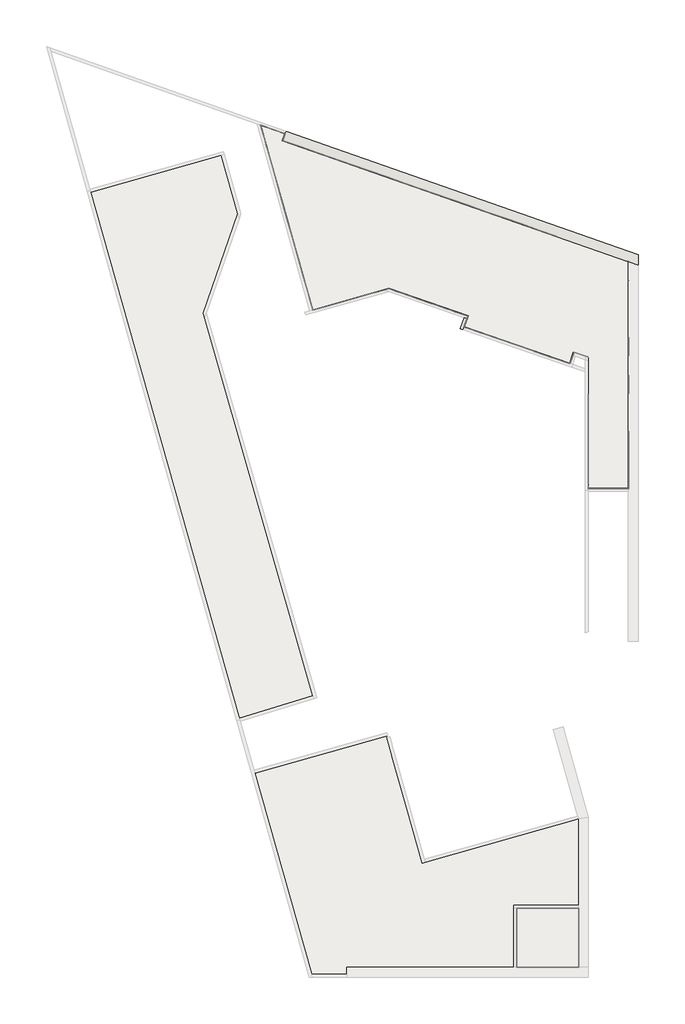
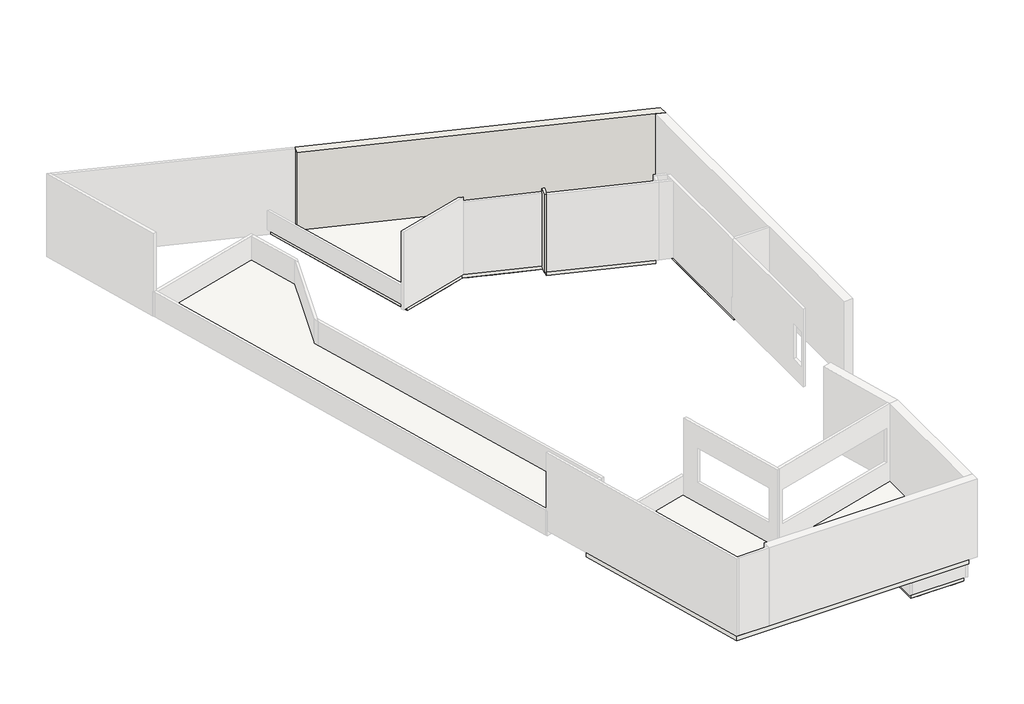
# Not in any storey, part 2 of 2: 5 slabs, 2 proxies, 2 walls.
"""IFC4 building model written with IfcOpenShell, lengths in millimetres."""

from ifc_helpers import new_model, si_unit, frame, origin, place, context, project, spatial, polyline, outline, extrude, faceted_brep, triangles, element, save

model = new_model("IFC4")

# Units and contexts
model_context = context("Model", 3, world=origin())
ifc_project = project(units=[si_unit("LENGTHUNIT", "METRE", prefix="MILLI")], contexts=[model_context])

# Site, building
site = spatial("IfcSite", under=ifc_project)
building = spatial("IfcBuilding", under=site)

# Proxies
placement = place(None, origin())
element("IfcBuildingElementProxy", 1, Name="Building Element Proxy", at=placement, inside=building, context=model_context, shape_type="Tessellation", body=[
    triangles([(-76591.7714355, 37109.5511536, 31169.8416138), (-76591.7714355, 37109.5511536, 33482.3306946), (-77472.0386353, 37417.5858398, 31169.8416138), (-77472.0386353, 37417.5858398, 33482.3306946), (-78352.305835, 37725.6182007, 31169.8416138), (-78352.305835, 37725.6182007, 33482.33302), (-79232.5776855, 38033.6505615, 31169.8416138), (-79232.5776855, 38033.6505615, 33482.3306946), (-80112.8402344, 38341.6852478, 31169.8416138), (-80112.8402344, 38341.6852478, 33482.3306946), (-80993.112085, 38649.7176086, 31169.8416138), (-80993.112085, 38649.7176086, 33482.3306946), (-81873.3746338, 38957.7522949, 31169.8416138), (-81873.3746338, 38957.7522949, 33482.3306946), (-82753.6464844, 39265.7846558, 31169.8416138), (-82753.6464844, 39265.7846558, 33482.33302), (-83321.742041, 39464.5771729, 31169.8416138), (-83321.742041, 39464.5771729, 33360.1962891), (-84199.8000732, 39771.8374878, 31169.8416138), (-84199.8000732, 39771.8374878, 33360.1962891), (-85077.8674072, 40079.1024536, 31169.8416138), (-85077.8674072, 40079.1024536, 33360.1962891), (-85955.9254395, 40386.3627686, 31169.8416138), (-85955.9254395, 40386.3627686, 33360.1962891), (-86833.9834717, 40693.6230835, 31169.8416138), (-86833.9834717, 40693.6230835, 33360.1962891), (-88494.933252, 41274.8387695, 31169.8416138), (-88494.933252, 41274.8387695, 31214.7342224), (-88579.9978271, 41304.6043945, 31169.8416138), (-88579.9978271, 41304.6043945, 31460.1076172), (-89403.0359619, 41592.6147217, 31169.8416138), (-89403.0359619, 41592.6147217, 31460.1076172), (-90226.0740967, 41880.6203979, 31169.8416138), (-90226.0740967, 41880.6203979, 31460.1076172), (-90291.353833, 41903.4655151, 31169.8416138), (-90291.353833, 41903.4655151, 31236.0305969), (-90292.9444336, 41904.0236206, 31169.8416138), (-90292.9444336, 41904.0236206, 31238.3234802), (-90301.6136719, 41907.0559937, 31169.8416138), (-90301.6136719, 41907.0559937, 31250.7738831), (-90327.9283447, 41916.2647339, 31169.8416138), (-90327.9283447, 41916.2647339, 31288.5576233), (-90322.003125, 41933.1892822, 31169.8416138), (-90322.003125, 41933.1892822, 31323.2043457), (-90316.7476318, 41948.2069702, 31169.8416138), (-90316.7476318, 41948.2069702, 31353.9420044), (-90315.2593506, 41952.4625244, 31169.8416138), (-90315.2593506, 41952.4625244, 31362.6531006), (-90240.3615967, 42166.5099243, 31169.8416138), (-90240.3615967, 42166.5099243, 32853.7504578), (-90213.4888184, 42243.3052368, 31169.8416138), (-90213.4888184, 42243.3052368, 32936.9384033), (-90210.1866943, 42252.7418701, 31169.8416138), (-90210.1866943, 42252.7418701, 32834.0539856), (-90233.3666748, 42260.9367188, 31169.8416138), (-90233.3666748, 42260.9367188, 32900.2290161), (-90505.1919434, 42356.9913208, 31169.8416138), (-90505.1919434, 42356.9913208, 32349.9998108), (-90523.4791992, 42363.4606934, 31169.8416138), (-90523.4791992, 42363.4606934, 32349.9998108), (-90582.0802734, 42384.1664062, 31169.8416138), (-90582.0802734, 42384.1664062, 32349.9998108), (-90670.4655762, 42415.3970581, 31169.8416138), (-90670.4655762, 42415.3970581, 32349.9998108), (-91052.9631592, 42550.5655518, 31169.8416138), (-91052.9631592, 42550.5655518, 32349.9998108), (-91162.2867188, 42589.2004028, 31169.8416138), (-91162.2867188, 42589.2004028, 32349.9998108), (-91452.1294922, 42691.626709, 31169.8416138), (-91452.1294922, 42691.626709, 32349.9998108)], [[1, 4, 2], [1, 3, 4], [3, 6, 4], [3, 5, 6], [5, 8, 6], [5, 7, 8], [7, 10, 8], [7, 9, 10], [9, 12, 10], [9, 11, 12], [11, 14, 12], [11, 13, 14], [13, 16, 14], [13, 15, 16], [15, 18, 16], [15, 17, 18], [17, 20, 18], [17, 19, 20], [19, 22, 20], [19, 21, 22], [21, 24, 22], [21, 23, 24], [23, 26, 24], [23, 25, 26], [25, 28, 26], [25, 27, 28], [27, 30, 28], [27, 29, 30], [29, 32, 30], [29, 31, 32], [31, 34, 32], [31, 33, 34], [33, 36, 34], [33, 35, 36], [35, 38, 36], [35, 37, 38], [37, 40, 38], [37, 39, 40], [39, 42, 40], [39, 41, 42], [41, 44, 42], [41, 43, 44], [43, 46, 44], [43, 45, 46], [45, 48, 46], [45, 47, 48], [47, 50, 48], [47, 49, 50], [49, 52, 50], [49, 51, 52], [51, 54, 52], [51, 53, 54], [53, 56, 54], [53, 55, 56], [55, 58, 56], [55, 57, 58], [57, 60, 58], [57, 59, 60], [59, 62, 60], [59, 61, 62], [61, 64, 62], [61, 63, 64], [63, 66, 64], [63, 65, 66], [65, 68, 66], [65, 67, 68], [67, 70, 68], [67, 69, 70]], closed=False),
    triangles([(-72978.3780396, 35845.1120544, 31169.8416138), (-72978.3780396, 35845.1120544, 33597.4120422), (-73070.6979858, 35877.4170593, 31169.8416138), (-73070.6979858, 35877.4170593, 33482.3306946)], [[1, 4, 2], [1, 3, 4]], closed=False),
    triangles([(-72978.3780396, 34880.4616333, 31169.8416138), (-72978.3780396, 34880.4616333, 33449.6908264), (-72978.3780396, 34891.2819031, 31169.8416138), (-72978.3780396, 34891.2819031, 33457.081073)], [[1, 4, 2], [1, 3, 4]], closed=False),
    triangles([(-72978.3780396, 31101.6341492, 31169.8416138), (-72978.3780396, 31101.6341492, 33425.9015808), (-72978.3780396, 32038.2258179, 31169.8416138), (-72978.3780396, 32038.2258179, 33425.9015808)], [[1, 4, 2], [1, 3, 4]], closed=False),
    triangles([(-72978.3780396, 29206.8125977, 31169.8416138), (-72978.3780396, 29206.8125977, 33416.3463501), (-72978.3780396, 30143.4042664, 31169.8416138), (-72978.3780396, 30143.4042664, 33416.3463501)], [[1, 4, 2], [1, 3, 4]], closed=False),
    triangles([(-75016.0536621, 24599.386853, 31169.8416138), (-75016.0536621, 24599.386853, 33388.8317505), (-75016.0536621, 24446.547345, 31169.8416138), (-75016.0536621, 24446.547345, 31884.4910156), (-74791.4348145, 24446.547345, 31169.8416138), (-74791.4348145, 24446.547345, 32349.9998108), (-74546.338147, 24446.547345, 31169.8416138), (-74546.338147, 24446.547345, 32349.9998108), (-74140.3954834, 24446.547345, 31169.8416138), (-74140.3954834, 24446.547345, 32349.9998108), (-73706.370813, 24446.547345, 31169.8416138), (-73706.370813, 24446.547345, 32349.9998108), (-73332.5703735, 24446.547345, 31169.8416138), (-73332.5703735, 24446.547345, 32349.9998108), (-73100.5426758, 24446.547345, 31169.8416138), (-73100.5426758, 24446.547345, 32349.9998108), (-72978.3780396, 24446.547345, 31169.8416138), (-72978.3780396, 24446.547345, 31745.5739136), (-72978.3780396, 24476.7501526, 31169.8416138), (-72978.3780396, 24476.7501526, 31845.7840759), (-72978.3780396, 24588.2084656, 31169.8416138), (-72978.3780396, 24588.2084656, 32986.4121277), (-72978.3780396, 25333.9885254, 31169.8416138), (-72978.3780396, 25333.9885254, 33185.3581238), (-72978.3780396, 25373.2861267, 31169.8416138), (-72978.3780396, 25373.2861267, 33314.5827942), (-72978.3780396, 25398.7729431, 31169.8416138), (-72978.3780396, 25398.7729431, 33357.8220154), (-72978.3780396, 25417.1671692, 31169.8416138), (-72978.3780396, 25417.1671692, 33365.6564209), (-72978.3780396, 25447.5536865, 31169.8416138), (-72978.3780396, 25447.5536865, 33292.1423035), (-72978.3780396, 26364.5419006, 31169.8416138), (-72978.3780396, 26364.5419006, 33292.1423035), (-72978.3780396, 26402.6837585, 31169.8416138), (-72978.3780396, 26402.6837585, 33268.136792), (-72978.3780396, 26509.5074707, 31169.8416138), (-72978.3780396, 26509.5074707, 33313.6409912), (-72978.3780396, 27046.9421082, 31169.8416138), (-72978.3780396, 27046.9421082, 32962.2856934), (-72978.3780396, 27252.0760986, 31169.8416138), (-72978.3780396, 27252.0760986, 33313.6409912), (-72978.3780396, 27302.6474304, 31169.8416138), (-72978.3780396, 27302.6474304, 33434.3894348), (-72978.3780396, 27315.9628967, 31169.8416138), (-72978.3780396, 27315.9628967, 33471.9755127)], [[1, 4, 2], [1, 3, 4], [3, 6, 4], [3, 5, 6], [5, 8, 6], [5, 7, 8], [7, 10, 8], [7, 9, 10], [9, 12, 10], [9, 11, 12], [11, 14, 12], [11, 13, 14], [13, 16, 14], [13, 15, 16], [15, 18, 16], [15, 17, 18], [17, 20, 18], [17, 19, 20], [19, 22, 20], [19, 21, 22], [21, 24, 22], [21, 23, 24], [23, 26, 24], [23, 25, 26], [25, 28, 26], [25, 27, 28], [27, 30, 28], [27, 29, 30], [29, 32, 30], [29, 31, 32], [31, 34, 32], [31, 33, 34], [33, 36, 34], [33, 35, 36], [35, 38, 36], [35, 37, 38], [37, 40, 38], [37, 39, 40], [39, 42, 40], [39, 41, 42], [41, 44, 42], [41, 43, 44], [43, 46, 44], [43, 45, 46]], closed=False),
    triangles([(-75016.0536621, 29167.8010254, 31169.8416138), (-75016.0536621, 29167.8010254, 33396.6429016), (-75016.0536621, 29157.9551147, 31169.8416138), (-75016.0536621, 29157.9551147, 33394.6174438), (-75016.0536621, 28227.4886536, 31169.8416138), (-75016.0536621, 28227.4886536, 33394.6151184), (-75016.0536621, 28207.0712952, 31169.8416138), (-75016.0536621, 28207.0712952, 33386.4714294), (-75016.0536621, 27295.8059875, 31169.8416138), (-75016.0536621, 27295.8059875, 33386.469104), (-75016.0536621, 27282.632373, 31169.8416138), (-75016.0536621, 27282.632373, 33329.3074768), (-75016.0536621, 26935.4024048, 31169.8416138), (-75016.0536621, 26935.4024048, 31781.4182373), (-75016.0536621, 26367.2463867, 31169.8416138), (-75016.0536621, 26367.2463867, 33329.3074768), (-75016.0536621, 26309.6103699, 31169.8416138), (-75016.0536621, 26309.6103699, 33255.5933716), (-75016.0536621, 25406.5003784, 31169.8416138), (-75016.0536621, 25406.5003784, 33255.5933716), (-75016.0536621, 24688.1581787, 31169.8416138), (-75016.0536621, 24688.1581787, 33400.0008362)], [[1, 4, 2], [1, 3, 4], [3, 6, 4], [3, 5, 6], [5, 8, 6], [5, 7, 8], [7, 10, 8], [7, 9, 10], [9, 12, 10], [9, 11, 12], [11, 14, 12], [11, 13, 14], [13, 16, 14], [13, 15, 16], [15, 18, 16], [15, 17, 18], [17, 20, 18], [17, 19, 20], [19, 22, 20], [19, 21, 22]], closed=False),
    triangles([(-75912.6268433, 30741.2375427, 31169.8416138), (-75912.6268433, 30741.2375427, 33400.0008362), (-75719.680481, 31298.2244751, 31169.8416138), (-75719.680481, 31298.2244751, 33400.0008362), (-75026.1274658, 31057.971698, 31169.8416138), (-75026.1274658, 31057.971698, 33400.0008362), (-75016.0536621, 31054.4788879, 31169.8416138), (-75016.0536621, 31054.4788879, 33400.0008362)], [[1, 4, 2], [1, 3, 4], [3, 6, 4], [3, 5, 6], [5, 8, 6], [5, 7, 8]], closed=False),
    triangles([(-91452.1294922, 42691.626709, 31169.8416138), (-91452.1294922, 42691.626709, 32349.9998108), (-91288.5394775, 42112.3411377, 31169.8416138), (-91288.5394775, 42112.3411377, 32349.9998108), (-91220.887793, 41872.7790161, 31169.8416138), (-91220.887793, 41872.7790161, 32349.9998108), (-91152.6593994, 41631.1612061, 31169.8416138), (-91152.6593994, 41631.1612061, 32349.9998108), (-91092.3281982, 41417.541687, 31169.8416138), (-91092.3281982, 41417.541687, 32349.9998108), (-90993.1807617, 41066.4282349, 31169.8416138), (-90993.1807617, 41066.4282349, 32349.9998108), (-90894.7402588, 40717.8588135, 31169.8416138), (-90894.7402588, 40717.8588135, 32349.9998108), (-90636.8304199, 39804.5564209, 31169.8416138), (-90636.8304199, 39804.5564209, 32349.9998108), (-90378.9112793, 38891.2540283, 31169.8416138), (-90378.9112793, 38891.2540283, 32349.9998108), (-90121.0014404, 37977.9516357, 31169.8416138), (-90121.0014404, 37977.9516357, 32349.9998108), (-89929.7014893, 37300.5278687, 31169.8416138), (-89929.7014893, 37300.5278687, 32349.9998108), (-89863.0916016, 37064.6492432, 31169.8416138), (-89863.0916016, 37064.6492432, 32349.9998108), (-89605.1724609, 36151.3468506, 31169.8416138), (-89605.1724609, 36151.3468506, 32349.9998108), (-89347.2626221, 35238.044458, 31169.8416138), (-89347.2626221, 35238.044458, 32349.9998108), (-89089.3434814, 34324.7420654, 31169.8416138), (-89089.3434814, 34324.7420654, 32349.9998108), (-88977.136377, 33927.3872498, 31169.8416138), (-88977.136377, 33927.3872498, 32349.9998108), (-88831.4336426, 33411.4396729, 31169.8416138), (-88831.4336426, 33411.4396729, 32349.9998108), (-88826.001416, 33392.1920105, 31169.8416138), (-88826.001416, 33392.1920105, 32349.9998108), (-88006.8607178, 33623.5127747, 31169.8416138), (-88006.8607178, 33623.5127747, 32349.9998108), (-87214.1184082, 33847.3805054, 31169.8416138), (-87214.1184082, 33847.3805054, 32349.9998108), (-86763.9319336, 33974.5122803, 31169.8416138), (-86763.9319336, 33974.5122803, 32349.9998108), (-86094.0100342, 34163.6960815, 31169.8416138), (-86094.0100342, 34163.6960815, 32349.9998108), (-85750.7286621, 34260.636676, 31169.8416138), (-85750.7286621, 34260.636676, 32349.9998108), (-85726.5719971, 34267.4595154, 31169.8416138), (-85726.5719971, 34267.4595154, 32349.9998108), (-85233.5323242, 34406.6905518, 31169.8416138), (-85233.5323242, 34406.6905518, 32349.9998108), (-85022.1312744, 34466.3915588, 31169.8416138), (-85022.1312744, 34466.3915588, 32349.9998108), (-84725.6842529, 34363.6978271, 31169.8416138), (-84725.6842529, 34363.6978271, 32349.9998108), (-84684.6262939, 34349.4754395, 31169.8416138), (-84684.6262939, 34349.4754395, 32349.9998108), (-84287.5435547, 34211.9210449, 31169.8416138), (-84287.5435547, 34211.9210449, 32349.9998108), (-84085.5558838, 34141.9508972, 31169.8416138), (-84085.5558838, 34141.9508972, 32349.9998108), (-83849.728418, 34060.2582092, 31169.8416138), (-83849.728418, 34060.2582092, 32349.9998108), (-83812.819043, 34047.4729431, 31169.8416138), (-83812.819043, 34047.4729431, 32349.9998108), (-83531.0408936, 33949.8602966, 31169.8416138), (-83531.0408936, 33949.8602966, 32349.9998108), (-82951.727417, 33749.1795227, 31169.8416138), (-82951.727417, 33749.1795227, 32349.9998108), (-82701.6310547, 33662.5452759, 31169.8416138), (-82701.6310547, 33662.5452759, 32349.9998108), (-82089.9660645, 33450.6558838, 31169.8416138), (-82089.9660645, 33450.6558838, 32349.9998108), (-81903.6797607, 33386.1226135, 31169.8416138), (-81903.6797607, 33386.1226135, 32349.9998108), (-81667.8057861, 33304.4159729, 31169.8416138), (-81667.8057861, 33304.4159729, 32349.9998108), (-81493.9466309, 33244.1894165, 31169.8416138), (-81493.9466309, 33244.1894165, 32349.9998108), (-81062.3636719, 33094.6822632, 31169.8416138), (-81062.3636719, 33094.6822632, 31350.7770813), (-81162.5436035, 32805.3231812, 31169.8416138), (-81162.5436035, 32805.3231812, 32349.9998108), (-81204.3922119, 32684.4328857, 31169.8416138), (-81204.3922119, 32684.4328857, 32349.9998108), (-81250.2219727, 32552.0735229, 31169.8416138), (-81250.2219727, 32552.0735229, 32349.9998108), (-80989.1681396, 32461.6395081, 31169.8416138), (-80989.1681396, 32461.6395081, 32975.0035217), (-80840.8051025, 32410.2472961, 31169.8416138), (-80840.8051025, 32410.2472961, 33330.6585571), (-80374.0521973, 32248.559491, 31169.8416138), (-80374.0521973, 32248.559491, 33371.604895), (-80363.27146, 32244.8248352, 31169.8416138), (-80363.27146, 32244.8248352, 33384.1762207), (-80357.5322754, 32242.8365845, 31169.8416138), (-80357.5322754, 32242.8365845, 33388.024823), (-80354.8626709, 32241.913385, 31169.8416138), (-80354.8626709, 32241.913385, 33389.5456604), (-79482.3670898, 31939.669043, 31169.8416138), (-79482.3670898, 31939.669043, 33389.5456604), (-79478.1068848, 31938.1947144, 31169.8416138), (-79478.1068848, 31938.1947144, 33391.1897461), (-79471.3072998, 31935.8390442, 31169.8416138), (-79471.3072998, 31935.8390442, 33397.2010071), (-78596.1979248, 31632.6924316, 31169.8416138), (-78596.1979248, 31632.6924316, 33397.2010071), (-78588.7100098, 31630.0972412, 31169.8416138), (-78588.7100098, 31630.0972412, 33397.7591125), (-77712.3681519, 31326.5227478, 31169.8416138), (-77712.3681519, 31326.5227478, 33397.761438), (-77708.7311646, 31325.2623596, 31169.8416138), (-77708.7311646, 31325.2623596, 33397.8963135), (-77705.5406616, 31324.1577759, 31169.8416138), (-77705.5406616, 31324.1577759, 33397.893988), (-77702.3408569, 31323.0485413, 31169.8416138), (-77702.3408569, 31323.0485413, 33397.8916626), (-76825.7106445, 31019.374054, 31169.8416138), (-76825.7106445, 31019.374054, 33397.8916626), (-76821.1760376, 31017.8043823, 31169.8416138), (-76821.1760376, 31017.8043823, 33397.7637634), (-75944.8295288, 30714.2275635, 31169.8416138), (-75944.8295288, 30714.2275635, 33397.7637634), (-75924.4307739, 30707.1628784, 31169.8416138), (-75924.4307739, 30707.1628784, 33399.6403931)], [[1, 4, 2], [1, 3, 4], [3, 6, 4], [3, 5, 6], [5, 8, 6], [5, 7, 8], [7, 10, 8], [7, 9, 10], [9, 12, 10], [9, 11, 12], [11, 14, 12], [11, 13, 14], [13, 16, 14], [13, 15, 16], [15, 18, 16], [15, 17, 18], [17, 20, 18], [17, 19, 20], [19, 22, 20], [19, 21, 22], [21, 24, 22], [21, 23, 24], [23, 26, 24], [23, 25, 26], [25, 28, 26], [25, 27, 28], [27, 30, 28], [27, 29, 30], [29, 32, 30], [29, 31, 32], [31, 34, 32], [31, 33, 34], [33, 36, 34], [33, 35, 36], [35, 38, 36], [35, 37, 38], [37, 40, 38], [37, 39, 40], [39, 42, 40], [39, 41, 42], [41, 44, 42], [41, 43, 44], [43, 46, 44], [43, 45, 46], [45, 48, 46], [45, 47, 48], [47, 50, 48], [47, 49, 50], [49, 52, 50], [49, 51, 52], [51, 54, 52], [51, 53, 54], [53, 56, 54], [53, 55, 56], [55, 58, 56], [55, 57, 58], [57, 60, 58], [57, 59, 60], [59, 62, 60], [59, 61, 62], [61, 64, 62], [61, 63, 64], [63, 66, 64], [63, 65, 66], [65, 68, 66], [65, 67, 68], [67, 70, 68], [67, 69, 70], [69, 72, 70], [69, 71, 72], [71, 74, 72], [71, 73, 74], [73, 76, 74], [73, 75, 76], [75, 78, 76], [75, 77, 78], [77, 80, 78], [77, 79, 80], [79, 82, 80], [79, 81, 82], [81, 84, 82], [81, 83, 84], [83, 86, 84], [83, 85, 86], [85, 88, 86], [85, 87, 88], [87, 90, 88], [87, 89, 90], [89, 92, 90], [89, 91, 92], [91, 94, 92], [91, 93, 94], [93, 96, 94], [93, 95, 96], [95, 98, 96], [95, 97, 98], [97, 100, 98], [97, 99, 100], [99, 102, 100], [99, 101, 102], [101, 104, 102], [101, 103, 104], [103, 106, 104], [103, 105, 106], [105, 108, 106], [105, 107, 108], [107, 110, 108], [107, 109, 110], [109, 112, 110], [109, 111, 112], [111, 114, 112], [111, 113, 114], [113, 116, 114], [113, 115, 116], [115, 118, 116], [115, 117, 118], [117, 120, 118], [117, 119, 120], [119, 122, 120], [119, 121, 122], [121, 124, 122], [121, 123, 124]], closed=False),
    triangles([(-91452.1294922, 42691.626709, 31169.8416138), (-88826.001416, 33392.1920105, 31169.8416138), (-85022.1312744, 34466.3915588, 31169.8416138), (-81062.3636719, 33094.6822632, 31169.8416138), (-81250.2219727, 32552.0735229, 31169.8416138), (-75924.4307739, 30707.1628784, 31169.8416138), (-75719.680481, 31298.2244751, 31169.8416138), (-75016.0536621, 31054.4788879, 31169.8416138), (-75016.0536621, 24446.547345, 31169.8416138), (-72978.3780396, 24446.547345, 31169.8416138), (-72978.3780396, 35845.1120544, 31169.8416138), (-90327.9283447, 41916.2647339, 31169.8416138), (-90210.1866943, 42252.7418701, 31169.8416138)], [[2, 3, 12], [1, 12, 13], [12, 1, 2], [12, 3, 11], [6, 4, 5], [8, 9, 10], [4, 7, 11], [4, 6, 7], [8, 11, 7], [11, 8, 10], [4, 11, 3]], closed=False),
])
element("IfcBuildingElementProxy", 2, Name="Building Element Proxy", at=placement, inside=building, context=model_context, shape_type="Tessellation", body=[
    triangles([(-78581.9941406, 436.5890851, 29849.8407898), (-78581.9941406, 436.5890851, 31169.8416138), (-78581.9941406, 528.7853107, 29849.8407898), (-78581.9941406, 528.7853107, 31169.8416138), (-78581.9941406, 647.3300371, 29849.8407898), (-78581.9941406, 647.3300371, 31169.8416138), (-78581.9941406, 2425.8565796, 29849.8407898), (-78581.9941406, 2425.8565796, 31169.8416138), (-78581.9941406, 2838.2825684, 29849.8407898), (-78581.9941406, 2838.2825684, 31169.8416138), (-78581.9941406, 3409.0596474, 29849.8407898), (-78581.9941406, 3409.0596474, 31169.8416138), (-76456.868042, 3409.0596474, 29849.8407898), (-76456.868042, 3409.0596474, 31169.8416138), (-75700.244458, 3409.0596474, 29849.8407898), (-75700.244458, 3409.0596474, 31169.8416138), (-75602.2271851, 3409.0596474, 29849.8407898), (-75602.2271851, 3409.0596474, 31169.8416138), (-75495.5406738, 3409.0596474, 29849.8407898), (-75495.5406738, 3409.0596474, 31169.8416138)], [[1, 4, 2], [1, 3, 4], [3, 6, 4], [3, 5, 6], [5, 8, 6], [5, 7, 8], [7, 10, 8], [7, 9, 10], [9, 12, 10], [9, 11, 12], [11, 14, 12], [11, 13, 14], [13, 16, 14], [13, 15, 16], [15, 18, 16], [15, 17, 18], [17, 20, 18], [17, 19, 20]], closed=False),
    triangles([(-78581.9941406, 436.5890851, 29849.8407898), (-78581.9941406, 436.5890851, 32549.999231), (-78379.5599854, 436.5890851, 29849.8407898), (-78379.5599854, 436.5890851, 32549.999231), (-78320.8844971, 436.5890851, 29849.8407898), (-78320.8844971, 436.5890851, 32549.999231), (-78175.2282715, 436.5890851, 29849.8407898), (-78175.2282715, 436.5890851, 32549.999231), (-77283.8640747, 436.5890851, 29849.8407898), (-77283.8640747, 436.5890851, 32549.999231), (-77248.2197388, 436.5890851, 29849.8407898), (-77248.2197388, 436.5890851, 32549.999231), (-76376.9194336, 436.5890851, 29849.8407898), (-76376.9194336, 436.5890851, 32549.999231), (-76236.8070557, 436.5890851, 29849.8407898), (-76236.8070557, 436.5890851, 32549.999231), (-75545.923645, 436.5890851, 29849.8407898), (-75545.923645, 436.5890851, 32549.999231), (-75495.5406738, 436.5890851, 29849.8407898), (-75495.5406738, 436.5890851, 32549.999231), (-75495.5406738, 1312.785276, 29849.8407898), (-75495.5406738, 1312.785276, 32549.999231), (-75495.5406738, 2250.3239799, 29849.8407898), (-75495.5406738, 2250.3239799, 32549.999231), (-75495.5406738, 3187.8626839, 29849.8407898), (-75495.5406738, 3187.8626839, 32549.999231), (-75495.5406738, 3409.0596474, 29849.8407898), (-75495.5406738, 3409.0596474, 32549.999231)], [[1, 4, 2], [1, 3, 4], [3, 6, 4], [3, 5, 6], [5, 8, 6], [5, 7, 8], [7, 10, 8], [7, 9, 10], [9, 12, 10], [9, 11, 12], [11, 14, 12], [11, 13, 14], [13, 16, 14], [13, 15, 16], [15, 18, 16], [15, 17, 18], [17, 20, 18], [17, 19, 20], [19, 22, 20], [19, 21, 22], [21, 24, 22], [21, 23, 24], [23, 26, 24], [23, 25, 26], [25, 28, 26], [25, 27, 28]], closed=False),
    triangles([(-78581.9941406, 436.5890851, 29849.8407898), (-75495.5406738, 436.5890851, 29849.8407898), (-75495.5406738, 3409.0596474, 29849.8407898), (-78581.9941406, 3409.0596474, 29849.8407898)], [[4, 1, 3], [2, 3, 1]], closed=False),
])

# Slabs
element("IfcSlab", 3, ObjectType="Piso Piscina", at=placement, inside=building, context=model_context, shape_type="SweptSolid", body=[
    extrude(outline(polyline([(-93418.2451963, 41165.8597406), (-92591.6151058, 38237.1818027), (-94323.2305019, 33238.4486268), (-88820.0735017, 14046.6594176), (-92513.2117725, 12926.3273198), (-99962.5568362, 39318.7037752), (-93418.2451963, 41165.8597406)])), frame((0.0, 0.0, 31150.0), z_axis=(0.0, 0.0, 1.0), x_axis=(1.0, 0.0, 0.0)), (0.0, 0.0, 1.0), 20.0),
])
element("IfcSlab", 4, ObjectType="Plataforma 1", at=placement, inside=building, context=model_context, shape_type="SweptSolid", body=[
    extrude(outline(polyline([(-91452.1272998, 42691.6264095), (-90210.1820751, 42252.7432232), (-90327.9271928, 41916.2625504), (-72978.3760975, 35845.1116583), (-72978.3760975, 24446.5473208), (-75016.0514969, 24446.5473208), (-75016.0514969, 31054.4799438), (-75719.6800381, 31298.2245031), (-75924.4305201, 30707.1619441), (-81250.2184197, 32552.0726442), (-81062.3603168, 33094.6826888), (-85022.1321722, 34466.3906134), (-88825.9987208, 33392.1917006), (-91452.1272998, 42691.6264095)])), frame((0.0, 0.0, 31170.0), z_axis=(0.0, 0.0, 1.0), x_axis=(1.0, 0.0, 0.0)), (0.0, 0.0, 1.0), 300.0),
])
element("IfcSlab", 5, ObjectType="Plataforma 1", at=placement, inside=building, context=model_context, shape_type="SweptSolid", body=[
    extrude(outline(polyline([(-85133.5779565, 12037.7676934), (-83338.5865031, 5681.4887369), (-75475.5398477, 7901.9862387), (-75475.5398477, 3409.0596697), (-78581.9967396, 3409.0596697), (-78581.9967396, 284.1226646), (-75475.5398477, 284.1226646), (-75475.5398477, -43.3942832), (-88984.3368364, -54.7407485), (-91861.4976282, 10138.7876876), (-85133.5779565, 12037.7676934)])), frame((0.0, 0.0, 31170.0), z_axis=(0.0, 0.0, 1.0), x_axis=(1.0, 0.0, 0.0)), (0.0, 0.0, 1.0), 300.0),
])
element("IfcSlab", 6, ObjectType="Plataforma 1", at=placement, inside=building, context=model_context, shape_type="SweptSolid", body=[
    extrude(outline(polyline([(-78581.9967396, 436.5890875), (-78581.9967396, 3409.0596697), (-75495.5398477, 3409.0596697), (-75495.5398477, 436.5890875), (-78581.9967396, 436.5890875)])), frame((0.0, 0.0, 29850.0), z_axis=(0.0, 0.0, 1.0), x_axis=(1.0, 0.0, 0.0)), (0.0, 0.0, 1.0), 300.0),
])
element("IfcSlab", 7, ObjectType="TZ_Laje 30cm", at=placement, inside=building, context=model_context, shape_type="SweptSolid", body=[
    extrude(outline(polyline([(-75495.5398477, 3409.0596697), (-75495.5398477, 436.5890875), (-78581.9967396, 436.5890875), (-78581.9967396, 3409.0596697), (-75495.5398477, 3409.0596697)])), frame((0.0, 0.0, 31170.0), z_axis=(0.0, 0.0, 1.0), x_axis=(1.0, 0.0, 0.0)), (0.0, 0.0, 1.0), 300.0),
])

# Walls
element("IfcWall", 8, ObjectType="Contenção 50cm - Externa", at=placement, inside=building, context=model_context, shape_type="Brep", body=[
    faceted_brep([(-90353.4106174, 41903.990832, 31470.0), (-72998.3760975, 35830.921118, 31470.0), (-72498.3760975, 35655.9554702, 31470.0), (-72498.3760975, 35655.9554702, 36250.0), (-72998.3760975, 35830.921118, 36250.0), (-90353.4106174, 41903.990832, 36250.0), (-90188.2642911, 42375.9301193, 31470.0), (-90188.2642911, 42375.9301193, 36250.0), (-72498.3760975, 36185.6846254, 36250.0), (-72498.3760975, 36185.6846254, 31470.0)], [[[0, 1, 2, 3, 4, 5]], [[6, 7, 8, 9]], [[2, 1, 0, 6, 9]], [[5, 4, 3, 8, 7]], [[0, 5, 7, 6]], [[3, 2, 9, 8]]]),
])
element("IfcWall", 9, ObjectType="Básica .15 - Externa", at=placement, inside=building, context=model_context, shape_type="Brep", body=[
    faceted_brep([(-81227.7294987, 33014.3892699, 31470.0), (-81415.5876016, 32471.7792253, 31470.0), (-81415.5876016, 32471.7792253, 32650.0), (-81415.5876016, 32471.7792253, 36250.0), (-81227.2140767, 33015.8780168, 36250.0), (-81227.2140767, 33015.8780168, 35950.0), (-81227.7294987, 33014.3892699, 35950.0), (-81085.9928492, 32965.290157, 31470.0), (-81085.9928492, 32965.290157, 35950.0), (-81085.4774271, 32966.7789039, 35950.0), (-81085.4774271, 32966.7789039, 36250.0), (-81224.7770071, 32564.4254779, 36250.0), (-81273.8509521, 32422.6801124, 36250.0), (-81273.8509521, 32422.6801124, 32650.0), (-81273.8509521, 32422.6801124, 31470.0), (-81224.7770071, 32564.4254779, 31470.0), (-81156.3583355, 32991.3328194, 36250.0), (-81226.8582774, 33015.7547641, 36250.0)], [[[0, 1, 2, 3, 4, 5, 6]], [[7, 8, 9, 10, 11, 12, 13, 14, 15]], [[1, 0, 7, 15, 14]], [[4, 3, 12, 11, 10, 16, 17]], [[1, 14, 13, 12, 3, 2]], [[0, 6, 8, 7]], [[5, 4, 17, 16, 10, 9]], [[5, 9, 8, 6]]]),
])

save(model, "model.ifc")
